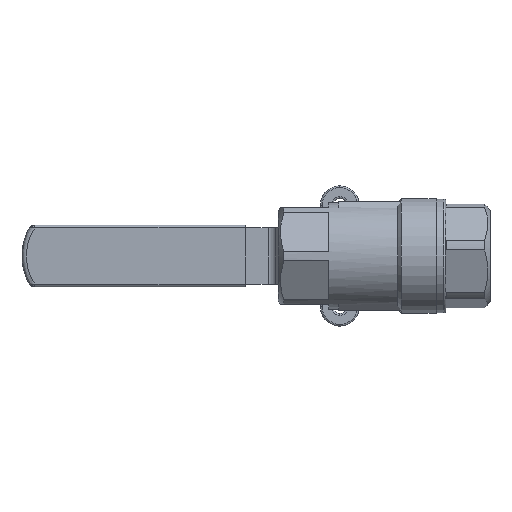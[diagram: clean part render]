
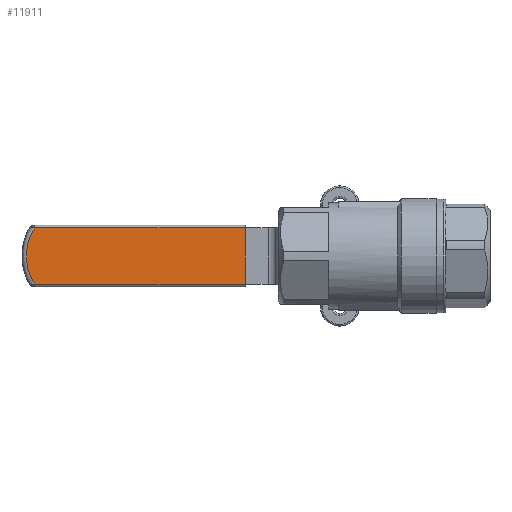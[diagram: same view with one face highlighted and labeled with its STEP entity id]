
A CAD part, front view. The second image highlights one B-rep face of the part: STEP entity #11911.
In plain terms, the highlighted planar face has unit normal (0, -1, 0).
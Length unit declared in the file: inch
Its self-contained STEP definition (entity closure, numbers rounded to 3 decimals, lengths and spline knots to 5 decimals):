
#1074 = FACE_OUTER_BOUND ( 'NONE', #4111, .T. ) ;
#3772 = CARTESIAN_POINT ( 'NONE',  ( 3.96161, 0.92, 0.31 ) ) ;
#4111 = EDGE_LOOP ( 'NONE', ( #37927, #15118, #42714, #31760 ) ) ;
#4429 = VERTEX_POINT ( 'NONE', #42437 ) ;
#10736 = CARTESIAN_POINT ( 'NONE',  ( 3.4784, 0.92, 0. ) ) ;
#11137 = DIRECTION ( 'NONE',  ( 1., 0., 0. ) ) ;
#11911 = ADVANCED_FACE ( 'NONE', ( #1074 ), #25834, .T. ) ;
#13117 = VERTEX_POINT ( 'NONE', #3772 ) ;
#14161 = CARTESIAN_POINT ( 'NONE',  ( 1.6325, 0.92, 0.31 ) ) ;
#14979 = DIRECTION ( 'NONE',  ( 0., 0., -1. ) ) ;
#15118 = ORIENTED_EDGE ( 'NONE', *, *, #26900, .T. ) ;
#15743 = VECTOR ( 'NONE', #37399, 39.37008 ) ;
#17052 = LINE ( 'NONE', #33158, #15743 ) ;
#17318 = CARTESIAN_POINT ( 'NONE',  ( 3.96161, 0.92, -0.31 ) ) ;
#17324 = DIRECTION ( 'NONE',  ( 0., -1., 0. ) ) ;
#21822 = VECTOR ( 'NONE', #30987, 39.37008 ) ;
#24073 = CARTESIAN_POINT ( 'NONE',  ( 1.6325, 0.92, -0.31 ) ) ;
#24808 = VECTOR ( 'NONE', #11137, 39.37008 ) ;
#25834 = PLANE ( 'NONE',  #52254 ) ;
#26900 = EDGE_CURVE ( 'NONE', #38788, #13117, #36376, .T. ) ;
#30084 = CARTESIAN_POINT ( 'NONE',  ( 1.6325, 0.92, 0.31 ) ) ;
#30326 = CARTESIAN_POINT ( 'NONE',  ( 1.6325, 0.92, -0.31 ) ) ;
#30987 = DIRECTION ( 'NONE',  ( 0., 0., -1. ) ) ;
#31760 = ORIENTED_EDGE ( 'NONE', *, *, #54766, .T. ) ;
#32013 = EDGE_CURVE ( 'NONE', #4429, #13117, #17052, .T. ) ;
#33158 = CARTESIAN_POINT ( 'NONE',  ( 1.6325, 0.92, 0.31 ) ) ;
#33243 = AXIS2_PLACEMENT_3D ( 'NONE', #10736, #40309, #14979 ) ;
#34346 = DIRECTION ( 'NONE',  ( 0., 0., -1. ) ) ;
#34404 = LINE ( 'NONE', #14161, #21822 ) ;
#36376 = CIRCLE ( 'NONE', #33243, 0.5741 ) ;
#37399 = DIRECTION ( 'NONE',  ( 1., 0., 0. ) ) ;
#37927 = ORIENTED_EDGE ( 'NONE', *, *, #39289, .T. ) ;
#38788 = VERTEX_POINT ( 'NONE', #17318 ) ;
#39289 = EDGE_CURVE ( 'NONE', #43793, #38788, #48637, .T. ) ;
#40309 = DIRECTION ( 'NONE',  ( 0., -1., 0. ) ) ;
#42437 = CARTESIAN_POINT ( 'NONE',  ( 1.6325, 0.92, 0.31 ) ) ;
#42714 = ORIENTED_EDGE ( 'NONE', *, *, #32013, .F. ) ;
#43793 = VERTEX_POINT ( 'NONE', #30326 ) ;
#48637 = LINE ( 'NONE', #24073, #24808 ) ;
#52254 = AXIS2_PLACEMENT_3D ( 'NONE', #30084, #17324, #34346 ) ;
#54766 = EDGE_CURVE ( 'NONE', #4429, #43793, #34404, .T. ) ;
